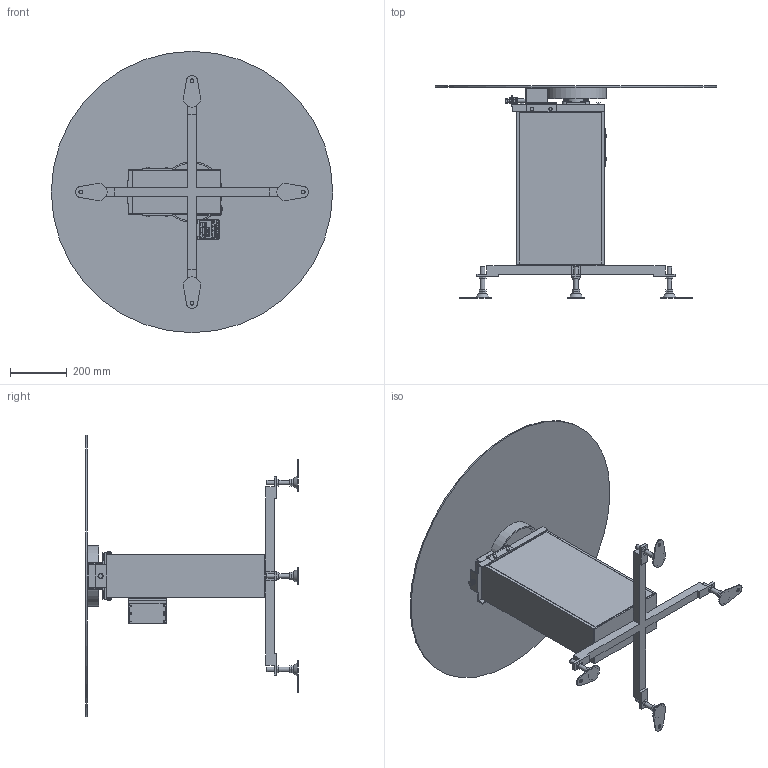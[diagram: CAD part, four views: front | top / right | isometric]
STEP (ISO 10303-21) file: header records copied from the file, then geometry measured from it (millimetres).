
FILE_DESCRIPTION( (''), '2;1');
FILE_NAME ('WEB-MIT2-306-1000-□-IVH-180-O.stp','2025-02-20T18:41:14',(''),(''),'spGate 20.6.2 (****-****-****-****)','','');
FILE_SCHEMA (('AUTOMOTIVE_DESIGN'));
Length unit declared in the file: millimetre
Products named in the file (26): WEB-MIT2-306-1000-_-IVH-180-O; TEMP_X_T-prt0; TEMP_X_T-prt1; TEMP_X_T-prt2; TEMP_X_T-prt3; TEMP_X_T-prt4; TEMP_X_T-prt5; TEMP_X_T-prt6; TEMP_X_T-prt7; TEMP_X_T-prt8; TEMP_X_T-prt9; TEMP_X_T-prt10; TEMP_X_T-prt11; TEMP_X_T-prt12; TEMP_X_T-prt13; TEMP_X_T-prt14; TEMP_X_T-prt15; TEMP_X_T-prt16; TEMP_X_T-prt17; TEMP_X_T-prt18; TEMP_X_T-prt19; TEMP_X_T-prt20; TEMP_X_T-prt21; TEMP_X_T-prt22; TEMP_X_T-prt23; TEMP_X_T-prt24
Assembly tree (25 placements, depth 2):
  WEB-MIT2-306-1000-_-IVH-180-O
    TEMP_X_T-prt0
    TEMP_X_T-prt1
    TEMP_X_T-prt2
    TEMP_X_T-prt3
    TEMP_X_T-prt4
    TEMP_X_T-prt5
    TEMP_X_T-prt6
    TEMP_X_T-prt7
    TEMP_X_T-prt8
    TEMP_X_T-prt9
    TEMP_X_T-prt10
    TEMP_X_T-prt11
    TEMP_X_T-prt12
    TEMP_X_T-prt13
    TEMP_X_T-prt14
    TEMP_X_T-prt15
    TEMP_X_T-prt16
    TEMP_X_T-prt17
    TEMP_X_T-prt18
    TEMP_X_T-prt19
    TEMP_X_T-prt20
    TEMP_X_T-prt21
    TEMP_X_T-prt22
    TEMP_X_T-prt23
    TEMP_X_T-prt24
Bounding box: 994 x 750.1 x 994 mm (x, y, z)
Volume: 33609508.8 mm3; surface area: 2863849.5 mm2
Topology: 25 solids, 35 shells, 1405 faces, 3659 edges, 2453 vertices
Faces by surface type: plane 1113, cylinder 165, bspline 125, sphere 2
Full cylindrical faces by diameter (mm): 3.3 x6, 3.5 x12, 3.8 x2, 4 x10, 5 x1, 5.8 x10, 6 x2, 6.5 x2, 6.6 x2, 7 x3, 7.5 x1, 8.5 x3, 9 x2, 10 x10, 10.5 x1, 11.3 x1, 12 x4, 12.2 x4, 13 x4, 15 x1, 15.3 x1, 15.4 x4, 16 x17, 21 x1, 23 x1, 25 x2, 34 x2, 35 x1, 36 x1, 40 x1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
Entity records: 75675 total; most frequent: CARTESIAN_POINT 11572, ORIENTED_EDGE 7318, DIRECTION 6663, COLOUR_RGB 5089, PRESENTATION_STYLE_ASSIGNMENT 5089, STYLED_ITEM 5089, EDGE_CURVE 3659, DRAUGHTING_PRE_DEFINED_CURVE_FONT 3659
